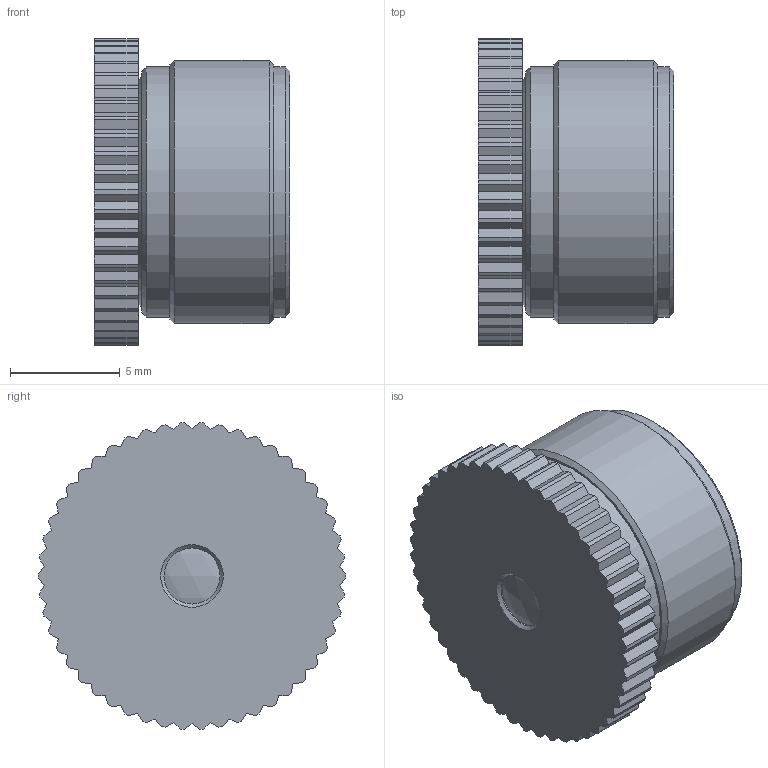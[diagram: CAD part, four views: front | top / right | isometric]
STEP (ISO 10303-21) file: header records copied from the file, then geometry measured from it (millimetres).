
FILE_DESCRIPTION(/* description */ (''),/* implementation_level */ '2;1');
FILE_NAME(/* name */ 'C:\Users\MaxHenkart\Desktop\Commonlands\Product\CIL872\CIL872-F2.5-M12ANIR.stp',/* time_stamp */ '2022-05-24T08:54:46-07:00',/* author */ ('MaxHenkart'),/* organization */ (''),/* preprocessor_version */ 'ST-DEVELOPER v19',/* originating_system */ 'Autodesk Inventor 2023',/* authorisation */ '');
FILE_SCHEMA (('AUTOMOTIVE_DESIGN { 1 0 10303 214 3 1 1 }'));
Length unit declared in the file: millimetre
Products named in the file (5): CIL872; BODY_4; BODY_3; BODY_2; BODY_0
Assembly tree (4 placements, depth 2):
  CIL872
    BODY_4
    BODY_3
    BODY_2
    BODY_0
Bounding box: 8.9 x 14 x 13.98 mm (x, y, z)
Volume: 711.9 mm3; surface area: 1590.6 mm2
Topology: 4 solids, 4 shells, 281 faces, 694 edges, 435 vertices
Faces by surface type: plane 120, cone 89, cylinder 70, sphere 2
Full cylindrical faces by diameter (mm): 2.554 x1, 4 x1, 4.8 x1, 6.6 x1, 6.8 x1, 7.62 x1, 8.4 x2, 9 x2, 9.5 x1, 9.6 x1, 9.8 x1, 9.92 x1, 10.5 x2, 11.4 x2, 12 x2
Entity records: 8412 total; most frequent: DIRECTION 1501, CARTESIAN_POINT 1413, ORIENTED_EDGE 1378, EDGE_CURVE 689, AXIS2_PLACEMENT_3D 522, LINE 457, VECTOR 457, VERTEX_POINT 434
